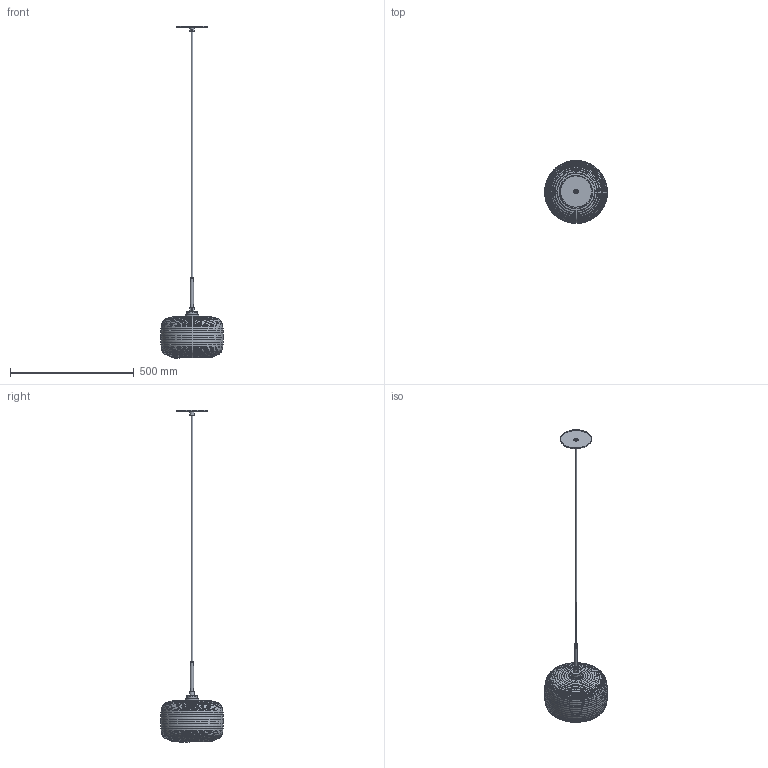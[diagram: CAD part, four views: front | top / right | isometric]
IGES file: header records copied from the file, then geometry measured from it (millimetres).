
Global section: file name: Niche - Arca Pendant; native system: unknown; preprocessor: unknown; author: unknown; organization: unknown; date: 20220921.094511; units: inch
Bounding box: 253.84 x 254 x 1339.77 mm (x, y, z)
Volume: 1001547.2 mm3; surface area: 478913.5 mm2
Topology: 12 solids, 12 shells, 294 faces, 913 edges, 649 vertices
Faces by surface type: bspline 294
